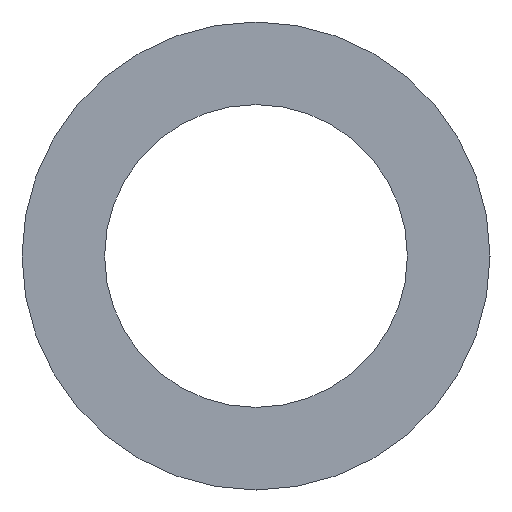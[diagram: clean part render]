
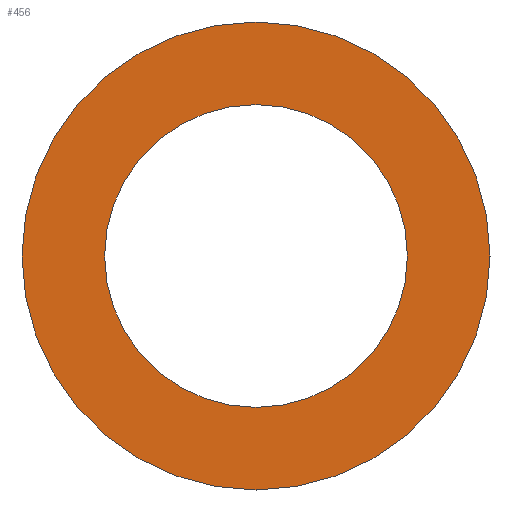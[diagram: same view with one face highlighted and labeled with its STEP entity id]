
A CAD part, front view. The second image highlights one B-rep face of the part: STEP entity #456.
In plain terms, the highlighted planar face has unit normal (0, -1, 0).
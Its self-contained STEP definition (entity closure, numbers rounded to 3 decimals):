
#73 = VERTEX_POINT ( 'NONE', #561 ) ;
#456 = ADVANCED_FACE ( 'NONE', ( #3430, #1526 ), #675, .F. ) ;
#561 = CARTESIAN_POINT ( 'NONE',  ( 0., -16.5, 27.5 ) ) ;
#637 = CARTESIAN_POINT ( 'NONE',  ( 0., -16.5, -42.5 ) ) ;
#675 = PLANE ( 'NONE',  #857 ) ;
#760 = DIRECTION ( 'NONE',  ( 0., 0., -1. ) ) ;
#857 = AXIS2_PLACEMENT_3D ( 'NONE', #2970, #1522, #2677 ) ;
#887 = DIRECTION ( 'NONE',  ( 0., 0., -1. ) ) ;
#927 = ORIENTED_EDGE ( 'NONE', *, *, #1806, .F. ) ;
#968 = EDGE_CURVE ( 'NONE', #2422, #3036, #3616, .T. ) ;
#1059 = EDGE_LOOP ( 'NONE', ( #927, #1745 ) ) ;
#1061 = DIRECTION ( 'NONE',  ( 0., -1., 0. ) ) ;
#1084 = CARTESIAN_POINT ( 'NONE',  ( 0., -16.5, 0. ) ) ;
#1175 = AXIS2_PLACEMENT_3D ( 'NONE', #1084, #1061, #1345 ) ;
#1274 = ORIENTED_EDGE ( 'NONE', *, *, #968, .T. ) ;
#1303 = ORIENTED_EDGE ( 'NONE', *, *, #2163, .T. ) ;
#1345 = DIRECTION ( 'NONE',  ( 0., 0., -1. ) ) ;
#1468 = EDGE_LOOP ( 'NONE', ( #1303, #1274 ) ) ;
#1516 = EDGE_CURVE ( 'NONE', #73, #2832, #2004, .T. ) ;
#1522 = DIRECTION ( 'NONE',  ( 0., 1., 0. ) ) ;
#1526 = FACE_OUTER_BOUND ( 'NONE', #1468, .T. ) ;
#1627 = CARTESIAN_POINT ( 'NONE',  ( 0., -16.5, -27.5 ) ) ;
#1743 = CARTESIAN_POINT ( 'NONE',  ( 0., -16.5, 42.5 ) ) ;
#1745 = ORIENTED_EDGE ( 'NONE', *, *, #1516, .F. ) ;
#1754 = CARTESIAN_POINT ( 'NONE',  ( 0., -16.5, 0. ) ) ;
#1806 = EDGE_CURVE ( 'NONE', #2832, #73, #3538, .T. ) ;
#2004 = CIRCLE ( 'NONE', #2051, 27.5 ) ;
#2051 = AXIS2_PLACEMENT_3D ( 'NONE', #1754, #2888, #887 ) ;
#2122 = AXIS2_PLACEMENT_3D ( 'NONE', #2465, #2731, #760 ) ;
#2163 = EDGE_CURVE ( 'NONE', #3036, #2422, #3130, .T. ) ;
#2387 = CARTESIAN_POINT ( 'NONE',  ( 0., -16.5, 0. ) ) ;
#2422 = VERTEX_POINT ( 'NONE', #1743 ) ;
#2465 = CARTESIAN_POINT ( 'NONE',  ( 0., -16.5, 0. ) ) ;
#2638 = DIRECTION ( 'NONE',  ( 0., -1., 0. ) ) ;
#2677 = DIRECTION ( 'NONE',  ( 0., 0., 1. ) ) ;
#2686 = DIRECTION ( 'NONE',  ( 0., 0., -1. ) ) ;
#2731 = DIRECTION ( 'NONE',  ( 0., -1., 0. ) ) ;
#2832 = VERTEX_POINT ( 'NONE', #1627 ) ;
#2837 = AXIS2_PLACEMENT_3D ( 'NONE', #2387, #2638, #2686 ) ;
#2888 = DIRECTION ( 'NONE',  ( 0., -1., 0. ) ) ;
#2970 = CARTESIAN_POINT ( 'NONE',  ( 0., -16.5, 27.5 ) ) ;
#3036 = VERTEX_POINT ( 'NONE', #637 ) ;
#3130 = CIRCLE ( 'NONE', #2122, 42.5 ) ;
#3430 = FACE_BOUND ( 'NONE', #1059, .T. ) ;
#3538 = CIRCLE ( 'NONE', #1175, 27.5 ) ;
#3616 = CIRCLE ( 'NONE', #2837, 42.5 ) ;
